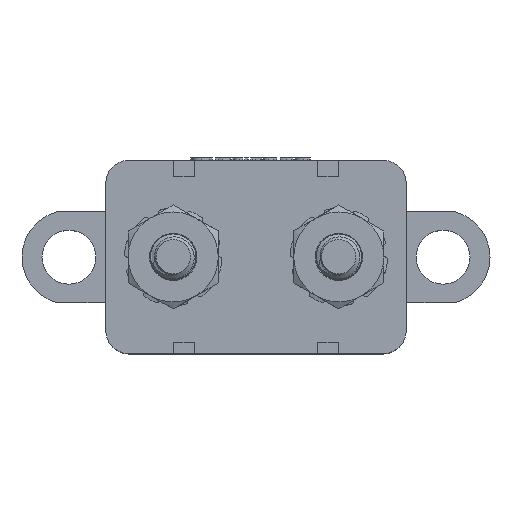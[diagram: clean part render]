
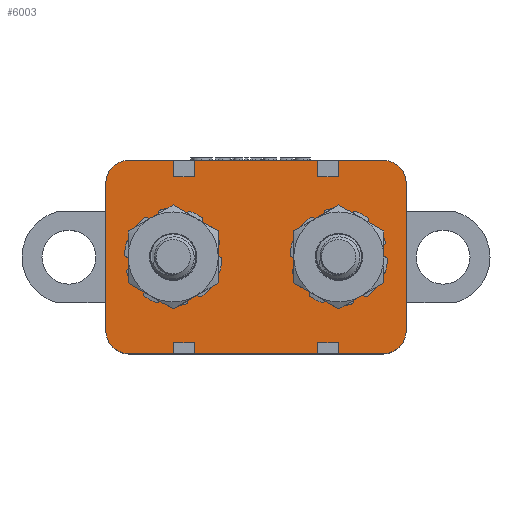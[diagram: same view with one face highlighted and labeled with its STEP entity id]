
A CAD part, top view. The second image highlights one B-rep face of the part: STEP entity #6003.
In plain terms, the highlighted planar face has unit normal (0, 0, 1).
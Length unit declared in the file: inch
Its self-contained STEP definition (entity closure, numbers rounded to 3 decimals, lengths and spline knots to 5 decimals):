
#641=PLANE('',#6356);
#845=FACE_OUTER_BOUND('',#1187,.T.);
#1187=EDGE_LOOP('',(#4701,#4702,#4703,#4704,#4705,#4706,#4707,#4708,#4709,
#4710,#4711,#4712,#4713,#4714,#4715,#4716,#4717,#4718,#4719,#4720,#4721,
#4722,#4723,#4724));
#1615=LINE('',#9575,#2033);
#1617=LINE('',#9581,#2035);
#1620=LINE('',#9586,#2038);
#1625=LINE('',#9596,#2043);
#1627=LINE('',#9602,#2045);
#1630=LINE('',#9607,#2048);
#1632=LINE('',#9612,#2050);
#1636=LINE('',#9620,#2054);
#1639=LINE('',#9626,#2057);
#1644=LINE('',#9635,#2062);
#1646=LINE('',#9638,#2064);
#1647=LINE('',#9641,#2065);
#1650=LINE('',#9647,#2068);
#1653=LINE('',#9655,#2071);
#1654=LINE('',#9659,#2072);
#1655=LINE('',#9661,#2073);
#1656=LINE('',#9663,#2074);
#1657=LINE('',#9664,#2075);
#1658=LINE('',#9666,#2076);
#1659=LINE('',#9670,#2077);
#2033=VECTOR('',#7135,0.3937);
#2035=VECTOR('',#7139,0.3937);
#2038=VECTOR('',#7144,0.3937);
#2043=VECTOR('',#7151,0.3937);
#2045=VECTOR('',#7155,0.3937);
#2048=VECTOR('',#7160,0.3937);
#2050=VECTOR('',#7164,0.3937);
#2054=VECTOR('',#7170,0.3937);
#2057=VECTOR('',#7175,0.3937);
#2062=VECTOR('',#7182,0.3937);
#2064=VECTOR('',#7186,0.3937);
#2065=VECTOR('',#7189,0.3937);
#2068=VECTOR('',#7194,0.3937);
#2071=VECTOR('',#7201,0.3937);
#2072=VECTOR('',#7204,0.3937);
#2073=VECTOR('',#7205,0.3937);
#2074=VECTOR('',#7206,0.3937);
#2075=VECTOR('',#7207,0.3937);
#2076=VECTOR('',#7208,0.3937);
#2077=VECTOR('',#7211,0.3937);
#2202=CIRCLE('',#6357,0.09843);
#2203=CIRCLE('',#6358,0.09843);
#2204=CIRCLE('',#6359,0.09843);
#2205=CIRCLE('',#6360,0.09843);
#2578=VERTEX_POINT('',#9569);
#2580=VERTEX_POINT('',#9573);
#2581=VERTEX_POINT('',#9577);
#2583=VERTEX_POINT('',#9580);
#2586=VERTEX_POINT('',#9590);
#2588=VERTEX_POINT('',#9594);
#2589=VERTEX_POINT('',#9598);
#2591=VERTEX_POINT('',#9601);
#2593=VERTEX_POINT('',#9610);
#2594=VERTEX_POINT('',#9611);
#2597=VERTEX_POINT('',#9619);
#2599=VERTEX_POINT('',#9625);
#2602=VERTEX_POINT('',#9633);
#2603=VERTEX_POINT('',#9640);
#2605=VERTEX_POINT('',#9646);
#2607=VERTEX_POINT('',#9652);
#2608=VERTEX_POINT('',#9654);
#2609=VERTEX_POINT('',#9656);
#2610=VERTEX_POINT('',#9658);
#2611=VERTEX_POINT('',#9660);
#2612=VERTEX_POINT('',#9662);
#2613=VERTEX_POINT('',#9665);
#2614=VERTEX_POINT('',#9667);
#2615=VERTEX_POINT('',#9669);
#3320=EDGE_CURVE('',#2578,#2580,#1615,.T.);
#3322=EDGE_CURVE('',#2583,#2581,#1617,.T.);
#3325=EDGE_CURVE('',#2580,#2583,#1620,.T.);
#3330=EDGE_CURVE('',#2586,#2588,#1625,.T.);
#3332=EDGE_CURVE('',#2591,#2589,#1627,.T.);
#3335=EDGE_CURVE('',#2588,#2591,#1630,.T.);
#3337=EDGE_CURVE('',#2593,#2594,#1632,.T.);
#3341=EDGE_CURVE('',#2597,#2593,#1636,.T.);
#3344=EDGE_CURVE('',#2594,#2599,#1639,.T.);
#3349=EDGE_CURVE('',#2589,#2602,#1644,.T.);
#3351=EDGE_CURVE('',#2581,#2586,#1646,.T.);
#3352=EDGE_CURVE('',#2603,#2578,#1647,.T.);
#3355=EDGE_CURVE('',#2605,#2597,#1650,.T.);
#3358=EDGE_CURVE('',#2607,#2602,#2202,.T.);
#3359=EDGE_CURVE('',#2607,#2608,#1653,.T.);
#3360=EDGE_CURVE('',#2609,#2608,#2203,.T.);
#3361=EDGE_CURVE('',#2609,#2610,#1654,.T.);
#3362=EDGE_CURVE('',#2610,#2611,#1655,.T.);
#3363=EDGE_CURVE('',#2611,#2612,#1656,.T.);
#3364=EDGE_CURVE('',#2612,#2605,#1657,.T.);
#3365=EDGE_CURVE('',#2599,#2613,#1658,.T.);
#3366=EDGE_CURVE('',#2614,#2613,#2204,.T.);
#3367=EDGE_CURVE('',#2614,#2615,#1659,.T.);
#3368=EDGE_CURVE('',#2603,#2615,#2205,.T.);
#4701=ORIENTED_EDGE('',*,*,#3320,.T.);
#4702=ORIENTED_EDGE('',*,*,#3325,.T.);
#4703=ORIENTED_EDGE('',*,*,#3322,.T.);
#4704=ORIENTED_EDGE('',*,*,#3351,.T.);
#4705=ORIENTED_EDGE('',*,*,#3330,.T.);
#4706=ORIENTED_EDGE('',*,*,#3335,.T.);
#4707=ORIENTED_EDGE('',*,*,#3332,.T.);
#4708=ORIENTED_EDGE('',*,*,#3349,.T.);
#4709=ORIENTED_EDGE('',*,*,#3358,.F.);
#4710=ORIENTED_EDGE('',*,*,#3359,.T.);
#4711=ORIENTED_EDGE('',*,*,#3360,.F.);
#4712=ORIENTED_EDGE('',*,*,#3361,.T.);
#4713=ORIENTED_EDGE('',*,*,#3362,.T.);
#4714=ORIENTED_EDGE('',*,*,#3363,.T.);
#4715=ORIENTED_EDGE('',*,*,#3364,.T.);
#4716=ORIENTED_EDGE('',*,*,#3355,.T.);
#4717=ORIENTED_EDGE('',*,*,#3341,.T.);
#4718=ORIENTED_EDGE('',*,*,#3337,.T.);
#4719=ORIENTED_EDGE('',*,*,#3344,.T.);
#4720=ORIENTED_EDGE('',*,*,#3365,.T.);
#4721=ORIENTED_EDGE('',*,*,#3366,.F.);
#4722=ORIENTED_EDGE('',*,*,#3367,.T.);
#4723=ORIENTED_EDGE('',*,*,#3368,.F.);
#4724=ORIENTED_EDGE('',*,*,#3352,.T.);
#6003=ADVANCED_FACE('',(#845),#641,.T.);
#6356=AXIS2_PLACEMENT_3D('',#9651,#7197,#7198);
#6357=AXIS2_PLACEMENT_3D('',#9653,#7199,#7200);
#6358=AXIS2_PLACEMENT_3D('',#9657,#7202,#7203);
#6359=AXIS2_PLACEMENT_3D('',#9668,#7209,#7210);
#6360=AXIS2_PLACEMENT_3D('',#9671,#7212,#7213);
#7135=DIRECTION('',(0.,1.,0.));
#7139=DIRECTION('',(0.,-1.,0.));
#7144=DIRECTION('',(1.,0.,0.));
#7151=DIRECTION('',(0.,1.,0.));
#7155=DIRECTION('',(0.,-1.,0.));
#7160=DIRECTION('',(1.,0.,0.));
#7164=DIRECTION('',(-1.,0.,0.));
#7170=DIRECTION('',(0.,-1.,0.));
#7175=DIRECTION('',(0.,1.,0.));
#7182=DIRECTION('',(1.,0.,0.));
#7186=DIRECTION('',(1.,0.,0.));
#7189=DIRECTION('',(1.,0.,0.));
#7194=DIRECTION('',(-1.,0.,0.));
#7197=DIRECTION('center_axis',(0.,0.,1.));
#7198=DIRECTION('ref_axis',(1.,0.,0.));
#7199=DIRECTION('center_axis',(0.,0.,-1.));
#7200=DIRECTION('ref_axis',(0.707,-0.707,0.));
#7201=DIRECTION('',(0.,1.,0.));
#7202=DIRECTION('center_axis',(0.,0.,-1.));
#7203=DIRECTION('ref_axis',(0.707,0.707,0.));
#7204=DIRECTION('',(-1.,0.,0.));
#7205=DIRECTION('',(0.,-1.,0.));
#7206=DIRECTION('',(-1.,0.,0.));
#7207=DIRECTION('',(0.,1.,0.));
#7208=DIRECTION('',(-1.,0.,0.));
#7209=DIRECTION('center_axis',(0.,0.,-1.));
#7210=DIRECTION('ref_axis',(-0.707,0.707,0.));
#7211=DIRECTION('',(0.,-1.,0.));
#7212=DIRECTION('center_axis',(0.,0.,-1.));
#7213=DIRECTION('ref_axis',(-0.707,-0.707,0.));
#9569=CARTESIAN_POINT('',(0.28348,0.,0.61));
#9573=CARTESIAN_POINT('',(0.28348,0.04748,0.61));
#9575=CARTESIAN_POINT('',(0.28348,0.19061,0.61));
#9577=CARTESIAN_POINT('',(0.36848,0.,0.61));
#9580=CARTESIAN_POINT('',(0.36848,0.04748,0.61));
#9581=CARTESIAN_POINT('',(0.36848,0.22561,0.61));
#9586=CARTESIAN_POINT('',(0.45473,0.04748,0.61));
#9590=CARTESIAN_POINT('',(0.88348,0.,0.61));
#9594=CARTESIAN_POINT('',(0.88348,0.04748,0.61));
#9596=CARTESIAN_POINT('',(0.88348,0.19061,0.61));
#9598=CARTESIAN_POINT('',(0.96848,0.,0.61));
#9601=CARTESIAN_POINT('',(0.96848,0.04748,0.61));
#9602=CARTESIAN_POINT('',(0.96848,0.22561,0.61));
#9607=CARTESIAN_POINT('',(0.75473,0.04748,0.61));
#9610=CARTESIAN_POINT('',(0.36848,0.73748,0.61));
#9611=CARTESIAN_POINT('',(0.28348,0.73748,0.61));
#9612=CARTESIAN_POINT('',(0.49723,0.73748,0.61));
#9619=CARTESIAN_POINT('',(0.36848,0.80748,0.61));
#9620=CARTESIAN_POINT('',(0.36848,0.60561,0.61));
#9625=CARTESIAN_POINT('',(0.28348,0.80748,0.61));
#9626=CARTESIAN_POINT('',(0.28348,0.57061,0.61));
#9633=CARTESIAN_POINT('',(1.15354,0.,0.61));
#9635=CARTESIAN_POINT('',(1.25197,0.,0.61));
#9638=CARTESIAN_POINT('',(1.25197,0.,0.61));
#9640=CARTESIAN_POINT('',(0.09843,0.,0.61));
#9641=CARTESIAN_POINT('',(1.25197,0.,0.61));
#9646=CARTESIAN_POINT('',(0.88348,0.80748,0.61));
#9647=CARTESIAN_POINT('',(0.,0.80748,0.61));
#9651=CARTESIAN_POINT('Origin',(0.62598,0.40374,0.61));
#9652=CARTESIAN_POINT('',(1.25197,0.09843,0.61));
#9653=CARTESIAN_POINT('Origin',(1.15354,0.09843,0.61));
#9654=CARTESIAN_POINT('',(1.25197,0.70906,0.61));
#9655=CARTESIAN_POINT('',(1.25197,0.80748,0.61));
#9656=CARTESIAN_POINT('',(1.15354,0.80748,0.61));
#9657=CARTESIAN_POINT('Origin',(1.15354,0.70906,0.61));
#9658=CARTESIAN_POINT('',(0.96848,0.80748,0.61));
#9659=CARTESIAN_POINT('',(0.,0.80748,0.61));
#9660=CARTESIAN_POINT('',(0.96848,0.73748,0.61));
#9661=CARTESIAN_POINT('',(0.96848,0.60561,0.61));
#9662=CARTESIAN_POINT('',(0.88348,0.73748,0.61));
#9663=CARTESIAN_POINT('',(0.79723,0.73748,0.61));
#9664=CARTESIAN_POINT('',(0.88348,0.57061,0.61));
#9665=CARTESIAN_POINT('',(0.09843,0.80748,0.61));
#9666=CARTESIAN_POINT('',(0.,0.80748,0.61));
#9667=CARTESIAN_POINT('',(0.,0.70906,0.61));
#9668=CARTESIAN_POINT('Origin',(0.09843,0.70906,0.61));
#9669=CARTESIAN_POINT('',(0.,0.09843,0.61));
#9670=CARTESIAN_POINT('',(0.,0.,0.61));
#9671=CARTESIAN_POINT('Origin',(0.09843,0.09843,0.61));
